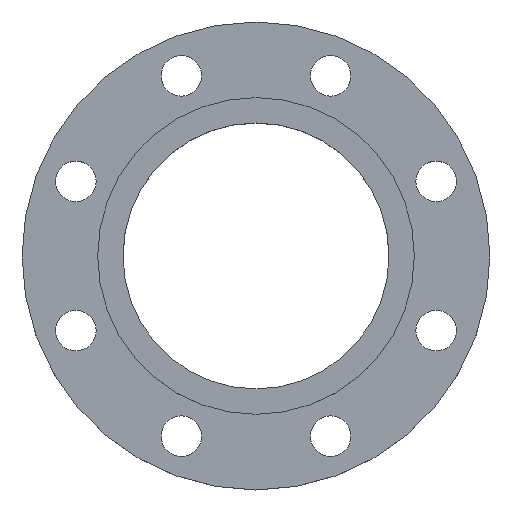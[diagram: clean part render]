
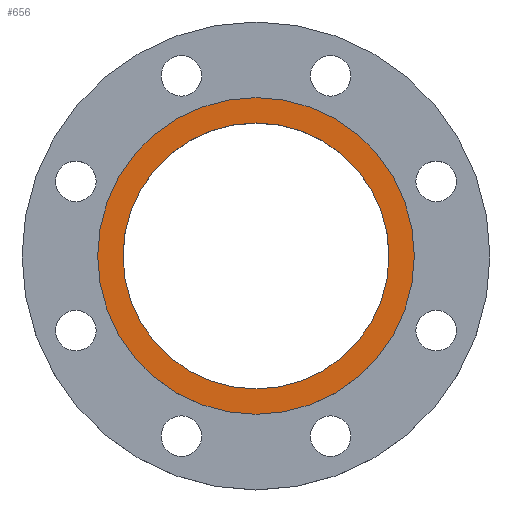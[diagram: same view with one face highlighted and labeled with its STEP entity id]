
A CAD part, top view. The second image highlights one B-rep face of the part: STEP entity #656.
In plain terms, the highlighted planar face has unit normal (0, 0, 1).
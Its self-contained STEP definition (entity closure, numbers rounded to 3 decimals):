
#44 = DIRECTION ( 'NONE',  ( 0., 0., 1. ) ) ;
#89 = CARTESIAN_POINT ( 'NONE',  ( -101.5, 0., 0. ) ) ;
#95 = CIRCLE ( 'NONE', #97, 101.5 ) ;
#97 = AXIS2_PLACEMENT_3D ( 'NONE', #979, #384, #646 ) ;
#101 = DIRECTION ( 'NONE',  ( -1., 0., 0. ) ) ;
#149 = VERTEX_POINT ( 'NONE', #387 ) ;
#243 = CIRCLE ( 'NONE', #252, 85.25 ) ;
#252 = AXIS2_PLACEMENT_3D ( 'NONE', #354, #44, #697 ) ;
#277 = DIRECTION ( 'NONE',  ( 1., 0., 0. ) ) ;
#304 = DIRECTION ( 'NONE',  ( 0., 0., 1. ) ) ;
#323 = CARTESIAN_POINT ( 'NONE',  ( 0., 0., 0. ) ) ;
#336 = PLANE ( 'NONE',  #504 ) ;
#339 = FACE_OUTER_BOUND ( 'NONE', #1008, .T. ) ;
#340 = FACE_BOUND ( 'NONE', #898, .T. ) ;
#351 = AXIS2_PLACEMENT_3D ( 'NONE', #576, #748, #101 ) ;
#354 = CARTESIAN_POINT ( 'NONE',  ( 0., 0., 0. ) ) ;
#384 = DIRECTION ( 'NONE',  ( 0., 0., -1. ) ) ;
#387 = CARTESIAN_POINT ( 'NONE',  ( 101.5, 0., 0. ) ) ;
#477 = CIRCLE ( 'NONE', #351, 101.5 ) ;
#484 = EDGE_CURVE ( 'NONE', #949, #762, #243, .T. ) ;
#487 = CARTESIAN_POINT ( 'NONE',  ( -85.25, 0., 0. ) ) ;
#504 = AXIS2_PLACEMENT_3D ( 'NONE', #323, #304, #277 ) ;
#522 = CARTESIAN_POINT ( 'NONE',  ( 85.25, 0., 0. ) ) ;
#574 = CIRCLE ( 'NONE', #575, 85.25 ) ;
#575 = AXIS2_PLACEMENT_3D ( 'NONE', #653, #634, #629 ) ;
#576 = CARTESIAN_POINT ( 'NONE',  ( 0., 0., 0. ) ) ;
#623 = EDGE_CURVE ( 'NONE', #762, #949, #574, .T. ) ;
#629 = DIRECTION ( 'NONE',  ( 1., 0., 0. ) ) ;
#634 = DIRECTION ( 'NONE',  ( 0., 0., 1. ) ) ;
#646 = DIRECTION ( 'NONE',  ( -1., 0., 0. ) ) ;
#653 = CARTESIAN_POINT ( 'NONE',  ( 0., 0., 0. ) ) ;
#656 = ADVANCED_FACE ( 'NONE', ( #340, #339 ), #336, .T. ) ;
#697 = DIRECTION ( 'NONE',  ( 1., 0., 0. ) ) ;
#748 = DIRECTION ( 'NONE',  ( 0., 0., -1. ) ) ;
#762 = VERTEX_POINT ( 'NONE', #487 ) ;
#842 = EDGE_CURVE ( 'NONE', #149, #933, #95, .T. ) ;
#849 = ORIENTED_EDGE ( 'NONE', *, *, #484, .F. ) ;
#850 = ORIENTED_EDGE ( 'NONE', *, *, #623, .F. ) ;
#853 = ORIENTED_EDGE ( 'NONE', *, *, #983, .F. ) ;
#854 = ORIENTED_EDGE ( 'NONE', *, *, #842, .F. ) ;
#898 = EDGE_LOOP ( 'NONE', ( #849, #850 ) ) ;
#933 = VERTEX_POINT ( 'NONE', #89 ) ;
#949 = VERTEX_POINT ( 'NONE', #522 ) ;
#979 = CARTESIAN_POINT ( 'NONE',  ( 0., 0., 0. ) ) ;
#983 = EDGE_CURVE ( 'NONE', #933, #149, #477, .T. ) ;
#1008 = EDGE_LOOP ( 'NONE', ( #853, #854 ) ) ;
